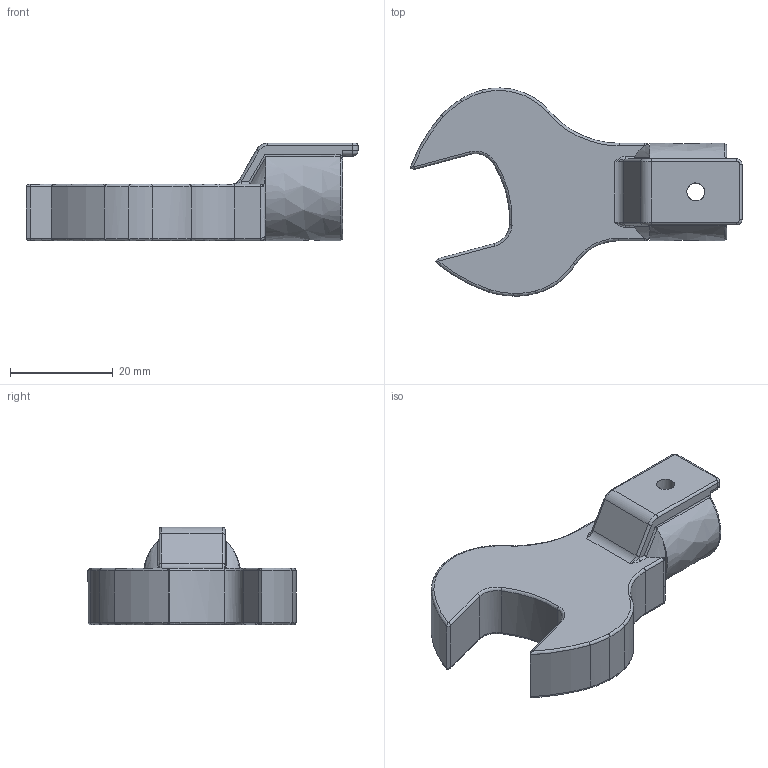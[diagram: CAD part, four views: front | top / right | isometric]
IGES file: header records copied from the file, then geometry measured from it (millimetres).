
Global section: file name: SH12DX18; native system: Autodesk Inventor 2016; preprocessor: unknown; author: Q532; date: 20151029.190819; units: millimetre
Bounding box: 64.7 x 40.54 x 19 mm (x, y, z)
Volume: 14629.8 mm3; surface area: 5722.1 mm2
Topology: 1 solids, 1 shells, 121 faces, 300 edges, 174 vertices
Faces by surface type: bspline 121
